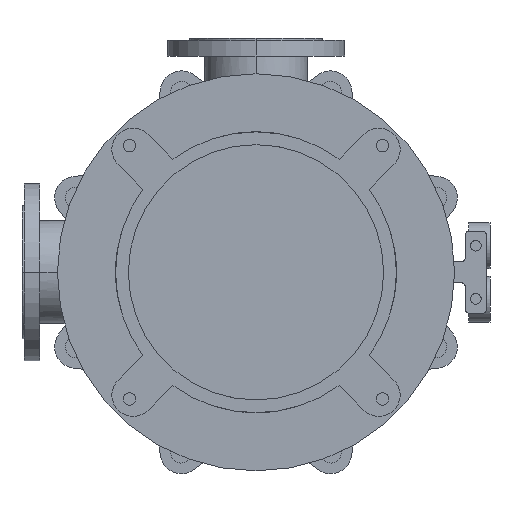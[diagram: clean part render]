
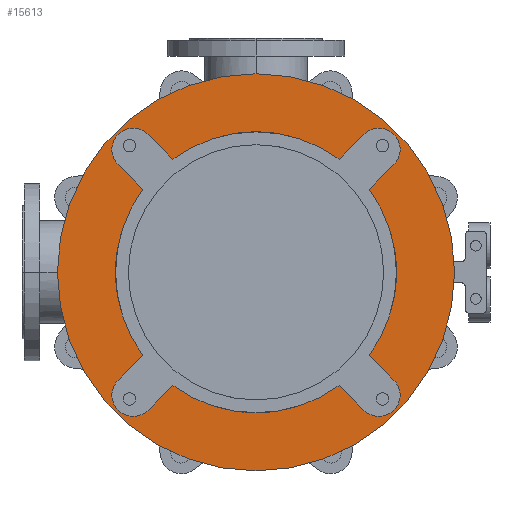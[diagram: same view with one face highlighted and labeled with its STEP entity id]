
A CAD part, front view. The second image highlights one B-rep face of the part: STEP entity #15613.
In plain terms, the highlighted planar face has unit normal (0, -1, 0).
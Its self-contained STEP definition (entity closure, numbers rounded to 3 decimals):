
#4391=CARTESIAN_POINT('',(0.,-25.,0.));
#4392=DIRECTION('',(0.,1.,0.));
#4393=DIRECTION('',(0.592,0.,-0.806));
#4394=AXIS2_PLACEMENT_3D('',#4391,#4392,#4393);
#4409=CARTESIAN_POINT('',(0.,-25.,0.));
#4410=DIRECTION('',(0.,1.,0.));
#4411=DIRECTION('',(0.806,0.,0.592));
#4412=AXIS2_PLACEMENT_3D('',#4409,#4410,#4411);
#4436=CARTESIAN_POINT('',(0.,-25.,0.));
#4437=DIRECTION('',(0.,1.,0.));
#4438=DIRECTION('',(-0.806,0.,-0.592));
#4439=AXIS2_PLACEMENT_3D('',#4436,#4437,#4438);
#4445=CARTESIAN_POINT('',(0.,-25.,0.));
#4446=DIRECTION('',(0.,1.,0.));
#4447=DIRECTION('',(-0.592,0.,0.806));
#4448=AXIS2_PLACEMENT_3D('',#4445,#4446,#4447);
#4623=CARTESIAN_POINT('',(0.,-25.,0.));
#4624=DIRECTION('',(0.,-1.,0.));
#4625=DIRECTION('',(-1.,0.,0.));
#4626=AXIS2_PLACEMENT_3D('',#4623,#4624,#4625);
#4628=CARTESIAN_POINT('',(0.,-25.,0.));
#4629=DIRECTION('',(0.,1.,0.));
#4630=DIRECTION('',(-1.,0.,0.));
#4631=AXIS2_PLACEMENT_3D('',#4628,#4629,#4630);
#4633=CARTESIAN_POINT('',(-173.241,-25.,173.241));
#4634=DIRECTION('',(0.,-1.,0.));
#4635=DIRECTION('',(0.707,0.,0.707));
#4636=AXIS2_PLACEMENT_3D('',#4633,#4634,#4635);
#4638=DIRECTION('',(0.707,0.,-0.707));
#4639=VECTOR('',#4638,49.286);
#4640=CARTESIAN_POINT('',(-194.454,-25.,152.028));
#4641=LINE('',#4640,#4639);
#4642=DIRECTION('',(-0.707,0.,-0.707));
#4643=VECTOR('',#4642,49.286);
#4644=CARTESIAN_POINT('',(-159.604,-25.,-117.178));
#4645=LINE('',#4644,#4643);
#4646=CARTESIAN_POINT('',(-173.241,-25.,-173.241));
#4647=DIRECTION('',(0.,-1.,0.));
#4648=DIRECTION('',(-0.707,0.,0.707));
#4649=AXIS2_PLACEMENT_3D('',#4646,#4647,#4648);
#4651=DIRECTION('',(0.707,0.,0.707));
#4652=VECTOR('',#4651,49.286);
#4653=CARTESIAN_POINT('',(-152.028,-25.,-194.454));
#4654=LINE('',#4653,#4652);
#4655=DIRECTION('',(0.707,0.,-0.707));
#4656=VECTOR('',#4655,49.286);
#4657=CARTESIAN_POINT('',(117.178,-25.,-159.604));
#4658=LINE('',#4657,#4656);
#4659=CARTESIAN_POINT('',(173.241,-25.,-173.241));
#4660=DIRECTION('',(0.,-1.,0.));
#4661=DIRECTION('',(-0.707,0.,-0.707));
#4662=AXIS2_PLACEMENT_3D('',#4659,#4660,#4661);
#4664=DIRECTION('',(-0.707,0.,0.707));
#4665=VECTOR('',#4664,49.286);
#4666=CARTESIAN_POINT('',(194.454,-25.,-152.028));
#4667=LINE('',#4666,#4665);
#4668=DIRECTION('',(0.707,0.,0.707));
#4669=VECTOR('',#4668,49.286);
#4670=CARTESIAN_POINT('',(159.604,-25.,117.178));
#4671=LINE('',#4670,#4669);
#4672=CARTESIAN_POINT('',(173.241,-25.,173.241));
#4673=DIRECTION('',(0.,-1.,0.));
#4674=DIRECTION('',(0.707,0.,-0.707));
#4675=AXIS2_PLACEMENT_3D('',#4672,#4673,#4674);
#4677=DIRECTION('',(-0.707,0.,-0.707));
#4678=VECTOR('',#4677,49.286);
#4679=CARTESIAN_POINT('',(152.028,-25.,194.454));
#4680=LINE('',#4679,#4678);
#4681=DIRECTION('',(-0.707,0.,0.707));
#4682=VECTOR('',#4681,49.286);
#4683=CARTESIAN_POINT('',(-117.178,-25.,159.604));
#4684=LINE('',#4683,#4682);
#8374=CARTESIAN_POINT('',(-280.,-25.,0.));
#8375=CARTESIAN_POINT('',(280.,-25.,0.));
#8376=VERTEX_POINT('',#8374);
#8377=VERTEX_POINT('',#8375);
#8398=CARTESIAN_POINT('',(-194.454,-25.,-152.028));
#8399=CARTESIAN_POINT('',(-152.028,-25.,-194.454));
#8400=VERTEX_POINT('',#8398);
#8401=VERTEX_POINT('',#8399);
#8402=CARTESIAN_POINT('',(-117.178,-25.,-159.604));
#8403=VERTEX_POINT('',#8402);
#8404=CARTESIAN_POINT('',(-159.604,-25.,-117.178));
#8405=VERTEX_POINT('',#8404);
#8414=CARTESIAN_POINT('',(152.028,-25.,-194.454));
#8415=CARTESIAN_POINT('',(194.454,-25.,-152.028));
#8416=VERTEX_POINT('',#8414);
#8417=VERTEX_POINT('',#8415);
#8418=CARTESIAN_POINT('',(159.604,-25.,-117.178));
#8419=VERTEX_POINT('',#8418);
#8420=CARTESIAN_POINT('',(117.178,-25.,-159.604));
#8421=VERTEX_POINT('',#8420);
#8430=CARTESIAN_POINT('',(194.454,-25.,152.028));
#8431=CARTESIAN_POINT('',(152.028,-25.,194.454));
#8432=VERTEX_POINT('',#8430);
#8433=VERTEX_POINT('',#8431);
#8434=CARTESIAN_POINT('',(117.178,-25.,159.604));
#8435=VERTEX_POINT('',#8434);
#8436=CARTESIAN_POINT('',(159.604,-25.,117.178));
#8437=VERTEX_POINT('',#8436);
#8446=CARTESIAN_POINT('',(-152.028,-25.,194.454));
#8447=CARTESIAN_POINT('',(-194.454,-25.,152.028));
#8448=VERTEX_POINT('',#8446);
#8449=VERTEX_POINT('',#8447);
#8450=CARTESIAN_POINT('',(-159.604,-25.,117.178));
#8451=VERTEX_POINT('',#8450);
#8452=CARTESIAN_POINT('',(-117.178,-25.,159.604));
#8453=VERTEX_POINT('',#8452);
#15573=CARTESIAN_POINT('',(0.,-25.,0.));
#15574=DIRECTION('',(0.,-1.,0.));
#15575=DIRECTION('',(-1.,0.,0.));
#15576=AXIS2_PLACEMENT_3D('',#15573,#15574,#15575);
#15577=PLANE('',#15576);
#15579=ORIENTED_EDGE('',*,*,#15578,.F.);
#15581=ORIENTED_EDGE('',*,*,#15580,.T.);
#15582=EDGE_LOOP('',(#15579,#15581));
#15583=FACE_OUTER_BOUND('',#15582,.F.);
#15585=ORIENTED_EDGE('',*,*,#15584,.T.);
#15587=ORIENTED_EDGE('',*,*,#15586,.T.);
#15588=ORIENTED_EDGE('',*,*,#15526,.F.);
#15590=ORIENTED_EDGE('',*,*,#15589,.T.);
#15592=ORIENTED_EDGE('',*,*,#15591,.T.);
#15594=ORIENTED_EDGE('',*,*,#15593,.T.);
#15595=ORIENTED_EDGE('',*,*,#15479,.F.);
#15596=ORIENTED_EDGE('',*,*,#15563,.T.);
#15598=ORIENTED_EDGE('',*,*,#15597,.T.);
#15600=ORIENTED_EDGE('',*,*,#15599,.T.);
#15601=ORIENTED_EDGE('',*,*,#15500,.F.);
#15603=ORIENTED_EDGE('',*,*,#15602,.T.);
#15605=ORIENTED_EDGE('',*,*,#15604,.T.);
#15607=ORIENTED_EDGE('',*,*,#15606,.T.);
#15608=ORIENTED_EDGE('',*,*,#15544,.F.);
#15610=ORIENTED_EDGE('',*,*,#15609,.T.);
#15611=EDGE_LOOP('',(#15585,#15587,#15588,#15590,#15592,#15594,#15595,#15596,
#15598,#15600,#15601,#15603,#15605,#15607,#15608,#15610));
#15612=FACE_BOUND('',#15611,.F.);
#15613=ADVANCED_FACE('',(#15583,#15612),#15577,.T.);
#4395=CIRCLE('',#4394,198.);
#4413=CIRCLE('',#4412,198.);
#4440=CIRCLE('',#4439,198.);
#4449=CIRCLE('',#4448,198.);
#4627=CIRCLE('',#4626,280.);
#4632=CIRCLE('',#4631,280.);
#4637=CIRCLE('',#4636,30.);
#4650=CIRCLE('',#4649,30.);
#4663=CIRCLE('',#4662,30.);
#4676=CIRCLE('',#4675,30.);
#15479=EDGE_CURVE('',#8421,#8403,#4395,.T.);
#15500=EDGE_CURVE('',#8437,#8419,#4413,.T.);
#15526=EDGE_CURVE('',#8405,#8451,#4440,.T.);
#15544=EDGE_CURVE('',#8453,#8435,#4449,.T.);
#15563=EDGE_CURVE('',#8421,#8416,#4658,.T.);
#15578=EDGE_CURVE('',#8376,#8377,#4627,.T.);
#15580=EDGE_CURVE('',#8376,#8377,#4632,.T.);
#15584=EDGE_CURVE('',#8448,#8449,#4637,.T.);
#15586=EDGE_CURVE('',#8449,#8451,#4641,.T.);
#15589=EDGE_CURVE('',#8405,#8400,#4645,.T.);
#15591=EDGE_CURVE('',#8400,#8401,#4650,.T.);
#15593=EDGE_CURVE('',#8401,#8403,#4654,.T.);
#15597=EDGE_CURVE('',#8416,#8417,#4663,.T.);
#15599=EDGE_CURVE('',#8417,#8419,#4667,.T.);
#15602=EDGE_CURVE('',#8437,#8432,#4671,.T.);
#15604=EDGE_CURVE('',#8432,#8433,#4676,.T.);
#15606=EDGE_CURVE('',#8433,#8435,#4680,.T.);
#15609=EDGE_CURVE('',#8453,#8448,#4684,.T.);
